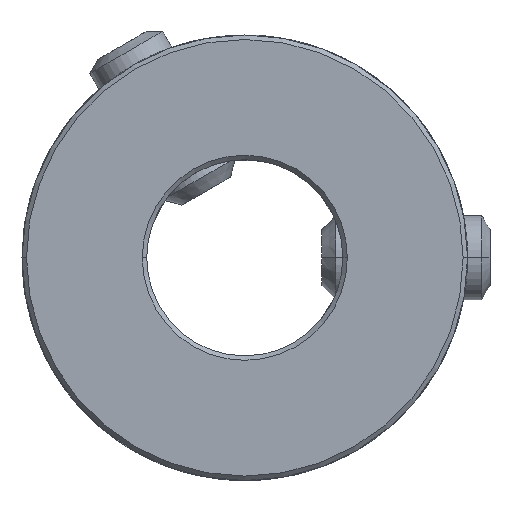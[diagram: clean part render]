
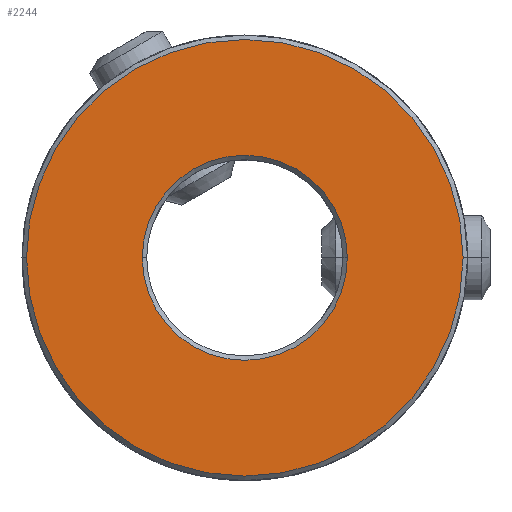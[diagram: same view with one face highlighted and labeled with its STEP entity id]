
A CAD part, front view. The second image highlights one B-rep face of the part: STEP entity #2244.
In plain terms, the highlighted planar face has unit normal (0, -1, 0).
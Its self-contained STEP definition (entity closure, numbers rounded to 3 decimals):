
#2=CARTESIAN_POINT('',(0.,-22.25,0.));
#3=DIRECTION('',(0.,-1.,0.));
#4=DIRECTION('',(1.,0.,0.));
#5=AXIS2_PLACEMENT_3D('',#2,#3,#4);
#7=CARTESIAN_POINT('',(0.,-22.25,0.));
#8=DIRECTION('',(0.,-1.,0.));
#9=DIRECTION('',(-1.,0.,0.));
#10=AXIS2_PLACEMENT_3D('',#7,#8,#9);
#12=CARTESIAN_POINT('',(0.,-22.25,0.));
#13=DIRECTION('',(0.,1.,0.));
#14=DIRECTION('',(1.,0.,0.));
#15=AXIS2_PLACEMENT_3D('',#12,#13,#14);
#17=CARTESIAN_POINT('',(0.,-22.25,0.));
#18=DIRECTION('',(0.,1.,0.));
#19=DIRECTION('',(-1.,0.,0.));
#20=AXIS2_PLACEMENT_3D('',#17,#18,#19);
#2070=CARTESIAN_POINT('',(7.32,-22.25,0.));
#2071=CARTESIAN_POINT('',(-7.32,-22.25,0.));
#2072=VERTEX_POINT('',#2070);
#2073=VERTEX_POINT('',#2071);
#2086=CARTESIAN_POINT('',(15.58,-22.25,0.));
#2087=CARTESIAN_POINT('',(-15.58,-22.25,0.));
#2088=VERTEX_POINT('',#2086);
#2089=VERTEX_POINT('',#2087);
#2227=CARTESIAN_POINT('',(0.,-22.25,0.));
#2228=DIRECTION('',(0.,1.,0.));
#2229=DIRECTION('',(1.,0.,0.));
#2230=AXIS2_PLACEMENT_3D('',#2227,#2228,#2229);
#2231=PLANE('',#2230);
#2233=ORIENTED_EDGE('',*,*,#2232,.F.);
#2235=ORIENTED_EDGE('',*,*,#2234,.F.);
#2236=EDGE_LOOP('',(#2233,#2235));
#2237=FACE_OUTER_BOUND('',#2236,.F.);
#2239=ORIENTED_EDGE('',*,*,#2238,.F.);
#2241=ORIENTED_EDGE('',*,*,#2240,.F.);
#2242=EDGE_LOOP('',(#2239,#2241));
#2243=FACE_BOUND('',#2242,.F.);
#2244=ADVANCED_FACE('',(#2237,#2243),#2231,.F.);
#6=CIRCLE('',#5,15.58);
#11=CIRCLE('',#10,15.58);
#16=CIRCLE('',#15,7.32);
#21=CIRCLE('',#20,7.32);
#2232=EDGE_CURVE('',#2088,#2089,#6,.T.);
#2234=EDGE_CURVE('',#2089,#2088,#11,.T.);
#2238=EDGE_CURVE('',#2072,#2073,#16,.T.);
#2240=EDGE_CURVE('',#2073,#2072,#21,.T.);
